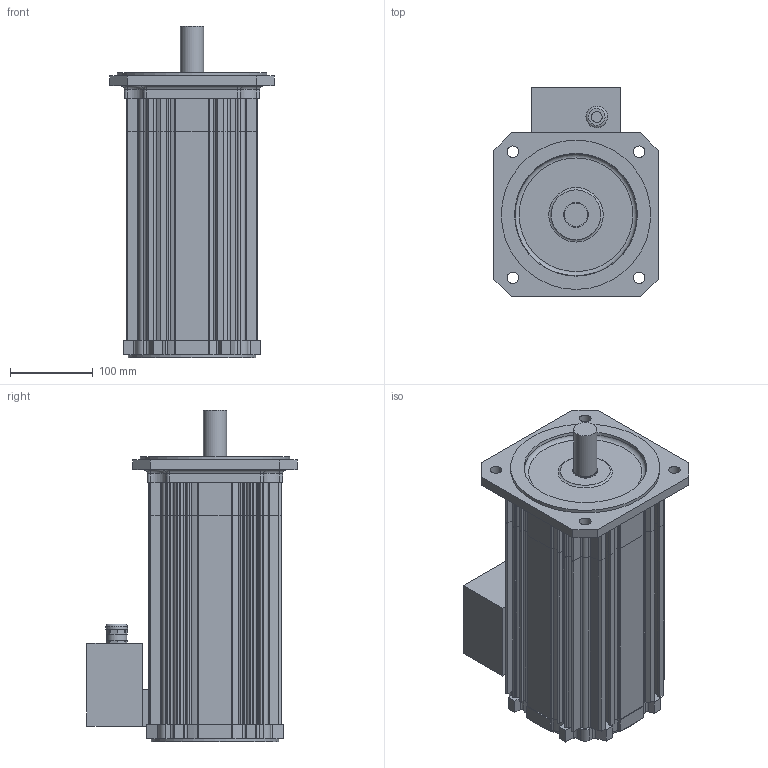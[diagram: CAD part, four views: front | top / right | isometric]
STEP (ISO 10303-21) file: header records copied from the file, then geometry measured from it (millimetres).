
FILE_DESCRIPTION(/* description */ (''),/* implementation_level */ '2;1');
FILE_NAME(/* name */ 'KSA8416',/* time_stamp */ '2009-02-26T16:05:05+01:00',/* author */ (''),/* organization */ (''),/* preprocessor_version */ 'ST-DEVELOPER v8',/* originating_system */ 'UNIGRAPHICS SOLUTIONS - UNIGRAPHICS 18.0',/* authorisation */ '');
FILE_SCHEMA (('AUTOMOTIVE_DESIGN { 1 2 10303 214 0 1 1 1 }'));
Length unit declared in the file: millimetre
Products named in the file (6): 0280391600_0; Lagersch_8BS_0; Lagersch_8AS_0; 089107X_0; SK3958_0; KSA8412_0
Assembly tree (5 placements, depth 3):
  KSA8412_0
    089107X_0
    Lagersch_8AS_0
    Lagersch_8BS_0
    SK3958_0
      0280391600_0
Bounding box: 198 x 253.35 x 400 mm (x, y, z)
Volume: 3347427.5 mm3; surface area: 734890.8 mm2
Topology: 6 solids, 6 shells, 666 faces, 1889 edges, 1249 vertices
Faces by surface type: cylinder 339, plane 302, torus 23, cone 2
Full cylindrical faces by diameter (mm): 13 x1, 14 x4, 20 x2, 24 x1, 26 x1, 28 x1, 30 x1, 35 x1, 143 x1, 149.6 x2, 151 x2, 154 x1, 180 x1
Entity records: 21937 total; most frequent: DIRECTION 3904, CARTESIAN_POINT 3892, ORIENTED_EDGE 3716, EDGE_CURVE 1858, AXIS2_PLACEMENT_3D 1398, VERTEX_POINT 1242, LINE 1108, VECTOR 1108
